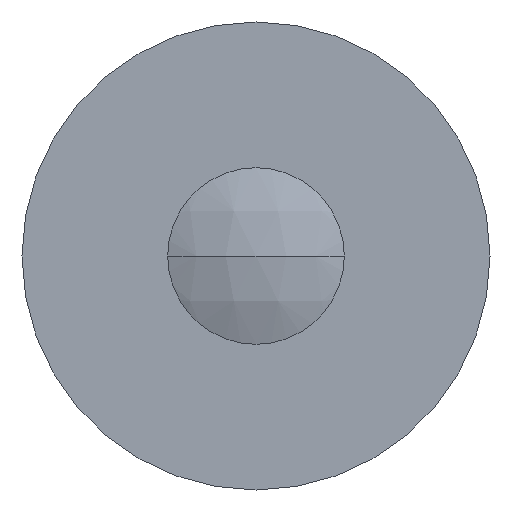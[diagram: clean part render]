
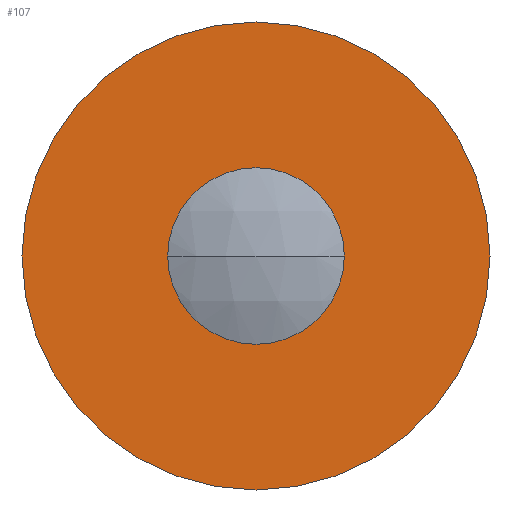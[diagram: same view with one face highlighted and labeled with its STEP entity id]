
A CAD part, front view. The second image highlights one B-rep face of the part: STEP entity #107.
In plain terms, the highlighted planar face has unit normal (0, -1, 0).
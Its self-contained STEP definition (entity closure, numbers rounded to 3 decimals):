
#107=ADVANCED_FACE('',(#180,#181),#182,.F.);
#180=FACE_OUTER_BOUND('',#256,.T.);
#181=FACE_BOUND('',#257,.T.);
#182=PLANE('',#258);
#256=EDGE_LOOP('',(#501,#502));
#257=EDGE_LOOP('',(#503,#504));
#258=AXIS2_PLACEMENT_3D('',#505,#506,#507);
#501=ORIENTED_EDGE('',*,*,#591,.T.);
#502=ORIENTED_EDGE('',*,*,#590,.T.);
#503=ORIENTED_EDGE('',*,*,#592,.F.);
#504=ORIENTED_EDGE('',*,*,#593,.F.);
#505=CARTESIAN_POINT('',(-13.25,-3.5,0.0));
#506=DIRECTION('',(-0.0,1.0,0.0));
#507=DIRECTION('',(1.0,0.0,0.0));
#590=EDGE_CURVE('',#708,#710,#712,.T.);
#591=EDGE_CURVE('',#710,#708,#713,.T.);
#592=EDGE_CURVE('',#714,#715,#716,.T.);
#593=EDGE_CURVE('',#715,#714,#717,.T.);
#708=VERTEX_POINT('',#881);
#710=VERTEX_POINT('',#884);
#712=CIRCLE('',#887,13.25);
#713=CIRCLE('',#888,13.25);
#714=VERTEX_POINT('',#889);
#715=VERTEX_POINT('',#890);
#716=CIRCLE('',#891,5.0);
#717=CIRCLE('',#892,5.0);
#881=CARTESIAN_POINT('',(0.,-3.5,13.25));
#884=CARTESIAN_POINT('',(0.0,-3.5,-13.25));
#887=AXIS2_PLACEMENT_3D('',#1006,#1007,#1008);
#888=AXIS2_PLACEMENT_3D('',#1009,#1010,#1011);
#889=CARTESIAN_POINT('',(-5.0,-3.5,0.0));
#890=CARTESIAN_POINT('',(5.0,-3.5,0.));
#891=AXIS2_PLACEMENT_3D('',#1012,#1013,#1014);
#892=AXIS2_PLACEMENT_3D('',#1015,#1016,#1017);
#1006=CARTESIAN_POINT('',(0.0,-3.5,0.0));
#1007=DIRECTION('',(0.0,-1.0,0.0));
#1008=DIRECTION('',(0.0,0.0,-1.0));
#1009=CARTESIAN_POINT('',(0.0,-3.5,0.0));
#1010=DIRECTION('',(0.0,-1.0,0.0));
#1011=DIRECTION('',(0.0,0.0,-1.0));
#1012=CARTESIAN_POINT('',(0.0,-3.5,0.0));
#1013=DIRECTION('',(0.0,-1.0,0.0));
#1014=DIRECTION('',(0.0,0.0,-1.0));
#1015=CARTESIAN_POINT('',(0.0,-3.5,0.0));
#1016=DIRECTION('',(0.0,-1.0,0.0));
#1017=DIRECTION('',(0.0,0.0,-1.0));
